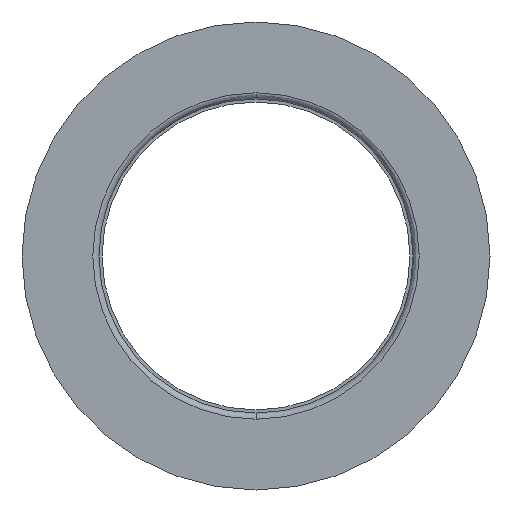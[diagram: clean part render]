
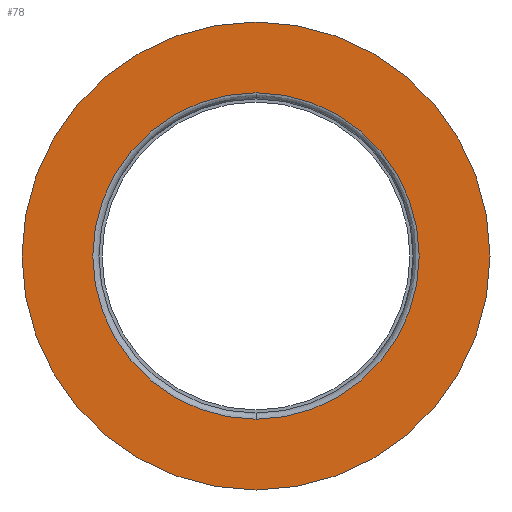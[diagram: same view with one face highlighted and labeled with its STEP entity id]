
A CAD part, left-side view. The second image highlights one B-rep face of the part: STEP entity #78.
In plain terms, the highlighted free-form (B-spline) face has degree [1, 1] with [2, 2] control points.
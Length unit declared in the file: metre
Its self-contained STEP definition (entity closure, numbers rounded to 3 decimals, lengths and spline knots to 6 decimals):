
#78 = ADVANCED_FACE( '', ( #105, #106 ), #107, .T. );
#105 = FACE_BOUND( '', #160, .T. );
#106 = FACE_OUTER_BOUND( '', #161, .T. );
#107 = B_SPLINE_SURFACE_WITH_KNOTS( '', 1, 1, ( ( #162, #163 ), ( #164, #165 ) ), .UNSPECIFIED., .F., .F., .F., ( 2, 2 ), ( 2, 2 ), ( 0., 1. ), ( 0., 1. ), .UNSPECIFIED. );
#160 = EDGE_LOOP( '', ( #339, #340 ) );
#161 = EDGE_LOOP( '', ( #341, #342 ) );
#162 = CARTESIAN_POINT( '', ( -0.08, -0.019228, -0.019228 ) );
#163 = CARTESIAN_POINT( '', ( -0.08, 0.019228, -0.019228 ) );
#164 = CARTESIAN_POINT( '', ( -0.08, -0.019228, 0.019228 ) );
#165 = CARTESIAN_POINT( '', ( -0.08, 0.019228, 0.019228 ) );
#339 = ORIENTED_EDGE( '', *, *, #487, .T. );
#340 = ORIENTED_EDGE( '', *, *, #488, .T. );
#341 = ORIENTED_EDGE( '', *, *, #489, .T. );
#342 = ORIENTED_EDGE( '', *, *, #490, .T. );
#487 = EDGE_CURVE( '', #539, #540, #541, .F. );
#488 = EDGE_CURVE( '', #540, #539, #542, .F. );
#489 = EDGE_CURVE( '', #543, #544, #545, .F. );
#490 = EDGE_CURVE( '', #544, #543, #546, .F. );
#539 = VERTEX_POINT( '', #619 );
#540 = VERTEX_POINT( '', #620 );
#541 = CIRCLE( '', #621, 0.01325 );
#542 = CIRCLE( '', #622, 0.01325 );
#543 = VERTEX_POINT( '', #623 );
#544 = VERTEX_POINT( '', #624 );
#545 = CIRCLE( '', #625, 0.019 );
#546 = CIRCLE( '', #626, 0.019 );
#619 = CARTESIAN_POINT( '', ( -0.08, 0., -0.01325 ) );
#620 = CARTESIAN_POINT( '', ( -0.08, 0., 0.01325 ) );
#621 = AXIS2_PLACEMENT_3D( '', #749, #750, #751 );
#622 = AXIS2_PLACEMENT_3D( '', #752, #753, #754 );
#623 = CARTESIAN_POINT( '', ( -0.08, 0., 0.019 ) );
#624 = CARTESIAN_POINT( '', ( -0.08, 0., -0.019 ) );
#625 = AXIS2_PLACEMENT_3D( '', #755, #756, #757 );
#626 = AXIS2_PLACEMENT_3D( '', #758, #759, #760 );
#749 = CARTESIAN_POINT( '', ( -0.08, 0., 0. ) );
#750 = DIRECTION( '', ( -1., 0., 0. ) );
#751 = DIRECTION( '', ( 0., -1., 0. ) );
#752 = CARTESIAN_POINT( '', ( -0.08, 0., 0. ) );
#753 = DIRECTION( '', ( -1., 0., 0. ) );
#754 = DIRECTION( '', ( 0., -1., 0. ) );
#755 = CARTESIAN_POINT( '', ( -0.08, 0., 0. ) );
#756 = DIRECTION( '', ( 1., 0., 0. ) );
#757 = DIRECTION( '', ( 0., 0., -1. ) );
#758 = CARTESIAN_POINT( '', ( -0.08, 0., 0. ) );
#759 = DIRECTION( '', ( 1., 0., 0. ) );
#760 = DIRECTION( '', ( 0., 0., -1. ) );
